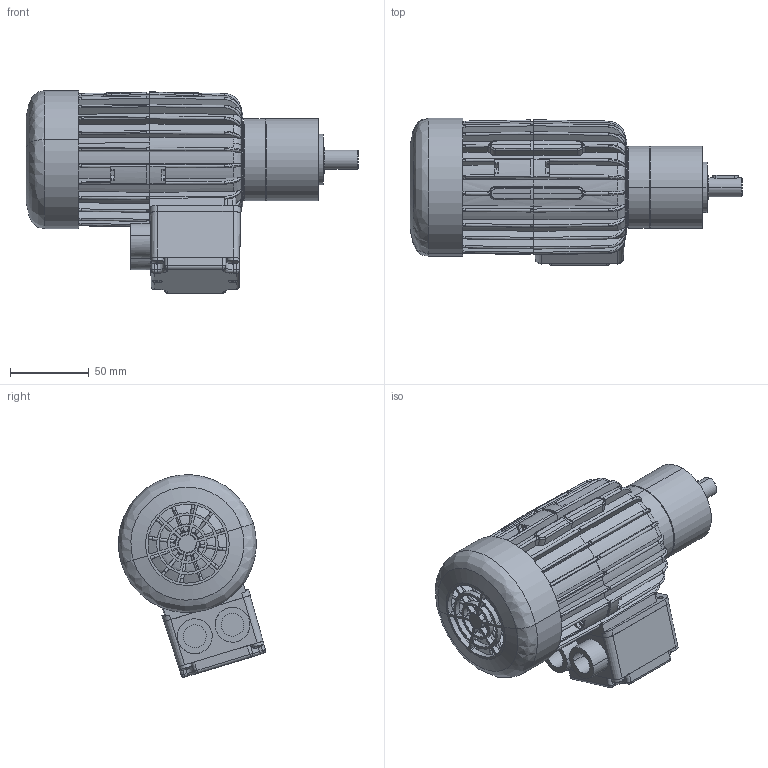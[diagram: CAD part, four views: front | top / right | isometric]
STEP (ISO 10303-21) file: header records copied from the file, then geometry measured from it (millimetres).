
FILE_DESCRIPTION (( 'STEP AP214' ), '1' );
FILE_NAME ('DG7150_+_PM52 1etage.STEP', '2014-12-08T15:10:03', ( '' ), ( '' ), 'SwSTEP 2.0', 'SolidWorks 2013', '' );
FILE_SCHEMA (( 'AUTOMOTIVE_DESIGN' ));
Length unit declared in the file: millimetre
Products named in the file (17): 8014926_MOTORRITZEL_Z17; GK2152_POS3_6_ANLAUFSCHEIBE_1ST; SCHRAUBE_1241978_1; 8006230_ZAHNKRANZ_Z46; 8006405_DICHTRING; 4X4X16_D6885A; D471_12X1_5; 8102168_ABTRIEB_LK1_KPL; GK2152_POS31_2_LAGERBOLZEN; 8101171_ABTRIEB_ROHTEIL_AF0; DIN998_PS_12X18X1; D625-6001-2RS; 8006231_LAGERFLANSCH; DG7150_+_PM52 1etage; Dg7150-2; adapt d662 dg7150_Part; PM52 pour 1.13.063 - 1227633
Assembly tree (24 placements, depth 4):
  DG7150_+_PM52 1etage
    PM52 pour 1.13.063 - 1227633
      8006231_LAGERFLANSCH
      D625-6001-2RS  x2
      DIN998_PS_12X18X1  x2
      8102168_ABTRIEB_LK1_KPL
        8101171_ABTRIEB_ROHTEIL_AF0
        GK2152_POS31_2_LAGERBOLZEN  x3
      D471_12X1_5
      4X4X16_D6885A
      8006405_DICHTRING  x2
      8006230_ZAHNKRANZ_Z46
      SCHRAUBE_1241978_1  x4
      GK2152_POS3_6_ANLAUFSCHEIBE_1ST
      8014926_MOTORRITZEL_Z17
    adapt d662 dg7150_Part
    Dg7150-2
Bounding box: 210.4 x 93.25 x 128.34 mm (x, y, z)
Volume: 26767.6 mm3; surface area: 156278.9 mm2
Topology: 19 solids, 51 shells, 1798 faces, 5326 edges, 3592 vertices
Faces by surface type: cylinder 705, plane 579, bspline 267, cone 247
Entity records: 81663 total; most frequent: CARTESIAN_POINT 27358, ORIENTED_EDGE 8895, DIRECTION 8352, EDGE_CURVE 5013, VERTEX_POINT 3394, AXIS2_PLACEMENT_3D 3161, LINE 2030, VECTOR 2030
